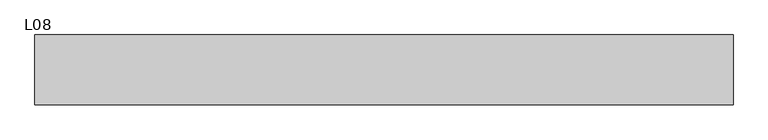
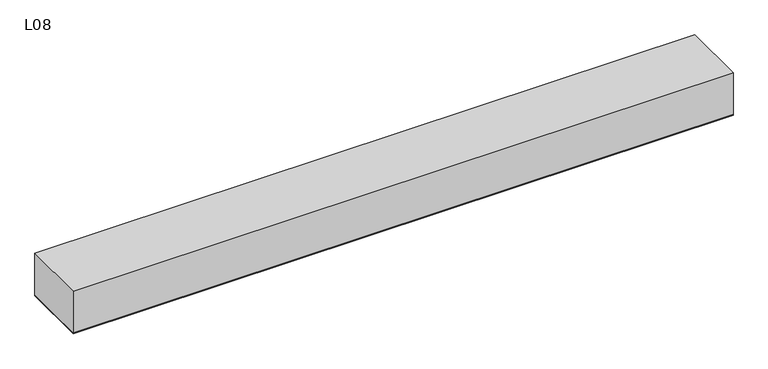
"""IFC4 building model written with IfcOpenShell, lengths in millimetres: light fixture geometry, ZYR_06.02.05 LLuminaria Lineal Encastada : L08."""

from ifc_helpers import new_model, si_unit, frame, origin, origin_with_axes, place, context, project, spatial, polyline, outline, extrude, source, transform, mapped, element, save


def l08_13b75478(model_context):
    return source(origin(), model_context, "Body", "SweptSolid", [
        extrude(outline(polyline([(750.0, 75.0), (750.0, -75.0), (-750.0, -75.0), (-750.0, 75.0), (750.0, 75.0)])), origin_with_axes(), (0.0, 0.0, 1.0), 100.0),
        extrude(outline(polyline([(750.0, 75.0), (750.0, -75.0), (-750.0, -75.0), (-750.0, 75.0), (750.0, 75.0)]), holes=[polyline([(-700.0, -50.0), (700.0, -50.0), (700.0, 50.0), (-700.0, 50.0), (-700.0, -50.0)])]), frame((0.0, 0.0, -2.0), z_axis=(0.0, 0.0, 1.0), x_axis=(1.0, 0.0, 0.0)), (0.0, 0.0, 1.0), 2.0),
        extrude(outline(polyline([(700.0, 50.0), (700.0, -50.0), (-700.0, -50.0), (-700.0, 50.0), (700.0, 50.0)])), frame((0.0, 0.0, -2.0), z_axis=(0.0, 0.0, 1.0), x_axis=(1.0, 0.0, 0.0)), (0.0, 0.0, 1.0), 2.0),
    ])


if __name__ == "__main__":
    model = new_model("IFC4")
    model_context = context("Model", 3, world=origin())
    ifc_project = project(units=[si_unit("LENGTHUNIT", "METRE", prefix="MILLI")], contexts=[model_context])
    site = spatial("IfcSite", under=ifc_project)
    building = spatial("IfcBuilding", under=site)
    placement = place(None, origin())
    l08_shape = l08_13b75478(model_context)
    element("IfcLightFixture", 1, ObjectType="ZYR_06.02.05 LLuminaria Lineal Encastada : L08", at=placement, inside=building, context=model_context, shape_type="MappedRepresentation", body=[
        mapped(l08_shape, transform((0.0, 0.0, 0.0), x_axis=(1.0, 0.0, 0.0), y_axis=(0.0, 1.0, 0.0), z_axis=(0.0, 0.0, 1.0))),
    ])
    save(model, "model.ifc")
